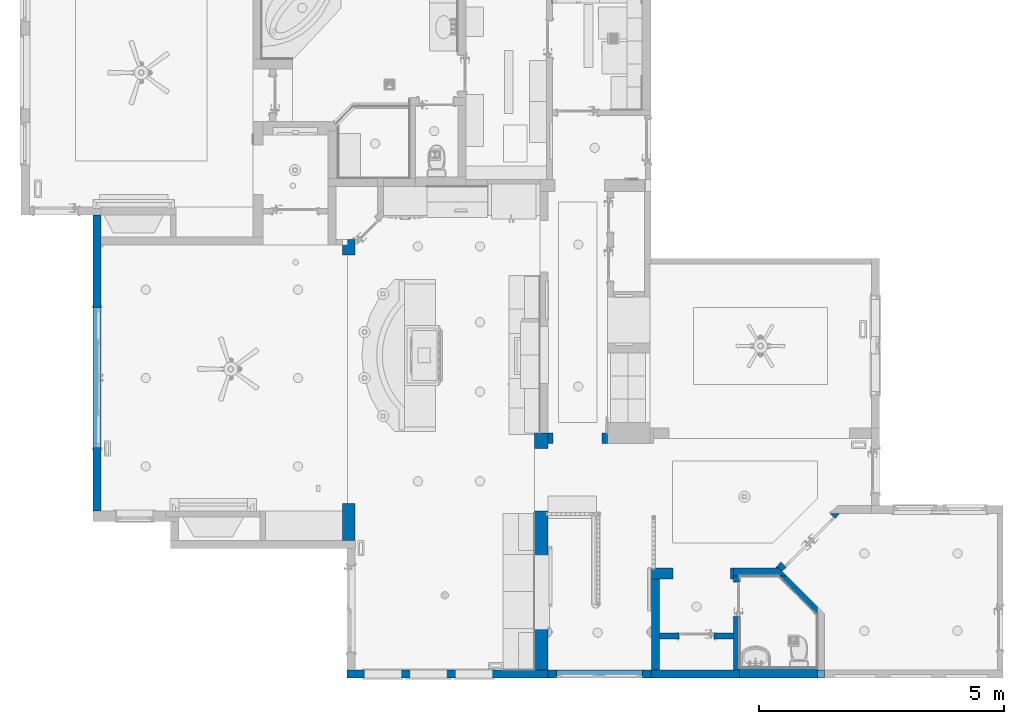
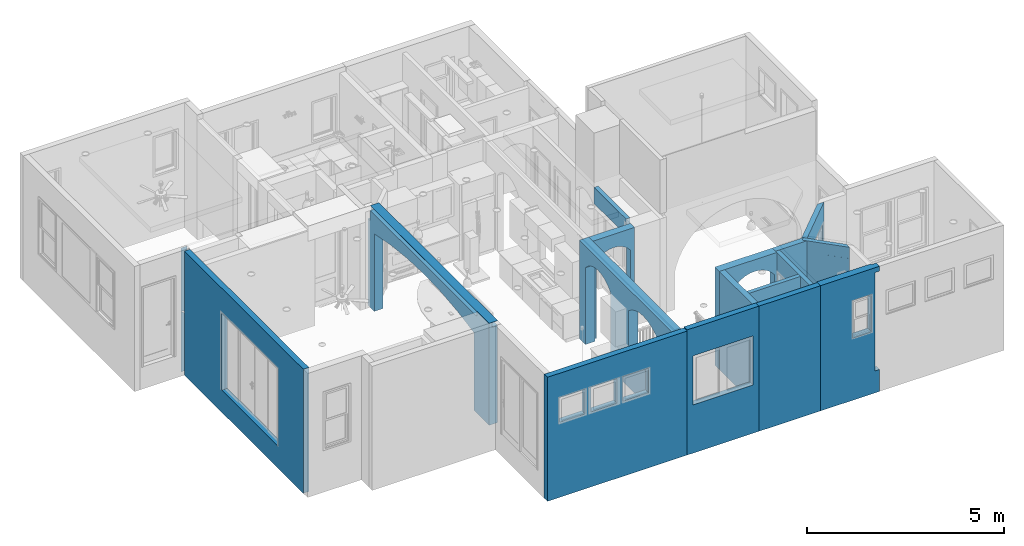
# One storey, part 6 of 77: 16 walls.
"""IFC2X3 building model written with IfcOpenShell, lengths in inches."""

from ifc_helpers import new_model, entity, si_unit, converted_unit, derived_unit, money_unit, direction, frame, origin_with_axes, place, context, subcontext, project, spatial, faceted_brep, material, type_object, element, save


model = new_model("IFC2X3")

# Units and contexts
model_context = context("Model", 3, precision=0.000393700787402, world=origin_with_axes(), true_north=direction((0.0, 1.0)))
body_context = subcontext(model_context, "Body", "Model", "MODEL_VIEW")
ifc_project = project(units=[converted_unit("LENGTHUNIT", "INCH", entity("IfcPositiveLengthMeasure", 0.0254), si_unit("LENGTHUNIT", "METRE"), dimensions=[1, 0, 0, 0, 0, 0, 0]), converted_unit("AREAUNIT", "SQUARE_FOOT", entity("IfcPositiveLengthMeasure", 0.09290304), si_unit("AREAUNIT", "SQUARE_METRE"), dimensions=[2, 0, 0, 0, 0, 0, 0]), si_unit("PLANEANGLEUNIT", "RADIAN"), si_unit("SOLIDANGLEUNIT", "STERADIAN"), money_unit("USD"), converted_unit("TIMEUNIT", "Year", entity("IfcTimeMeasure", 31556926.0), si_unit("TIMEUNIT", "SECOND"), dimensions=[0, 0, 1, 0, 0, 0, 0]), si_unit("MASSUNIT", "GRAM", prefix="KILO"), si_unit("THERMODYNAMICTEMPERATUREUNIT", "DEGREE_CELSIUS"), si_unit("LUMINOUSINTENSITYUNIT", "LUMEN"), si_unit("ENERGYUNIT", "JOULE", prefix="MEGA"), derived_unit("THERMALCONDUCTANCEUNIT", [(si_unit("POWERUNIT", "WATT"), 1), (si_unit("LENGTHUNIT", "METRE"), -1), (si_unit("THERMODYNAMICTEMPERATUREUNIT", "KELVIN"), -1)]), derived_unit("SPECIFICHEATCAPACITYUNIT", [(si_unit("ENERGYUNIT", "JOULE"), 1), (si_unit("MASSUNIT", "GRAM", prefix="KILO"), -1), (si_unit("THERMODYNAMICTEMPERATUREUNIT", "KELVIN"), -1)]), derived_unit("MASSDENSITYUNIT", [(si_unit("MASSUNIT", "GRAM", prefix="KILO"), 1), (si_unit("VOLUMEUNIT", "CUBIC_METRE"), -1)])], contexts=[model_context])

# Site, building, storey
site_placement = place(None, origin_with_axes())
site = spatial("IfcSite", under=ifc_project, at=site_placement, Name="Site", CompositionType="ELEMENT")
building_placement = place(site_placement, origin_with_axes())
building = spatial("IfcBuilding", under=site, at=building_placement, Name="Building", CompositionType="ELEMENT")
storey_placement = place(building_placement, frame((0.0, 0.0, 127.952755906), z_axis=(0.0, 0.0, 1.0), x_axis=(1.0, 0.0, 0.0)))
storey = spatial("IfcBuildingStorey", under=building, at=storey_placement, Name="Second Floor", CompositionType="ELEMENT", Elevation=127.953)

# Walls
ifc_material = material(Name="Generic - Structural")
wall_type_1 = type_object("IfcWallType", Name="Generic - Structural 115", PredefinedType="NOTDEFINED")
wall_1_placement = place(storey_placement, frame((691.989643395, 282.41001385, 0.0), z_axis=(0.0, 0.0, 1.0), x_axis=(0.0, -1.0, 0.0)))
element("IfcWall", 1, at=wall_1_placement, inside=storey, type_object=wall_type_1, material=ifc_material, Name="W-03", context=body_context, shape_type="Brep", body=[
    faceted_brep([(63.9541766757, 0.0, 0.0157480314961), (63.9541766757, 0.0, 94.094488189), (63.9541766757, 4.52755905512, 94.094488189), (63.9541766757, 4.52755905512, 0.0157480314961), (64.073707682, 0.0, 0.0157480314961), (64.073707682, 0.0, 94.094488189), (64.073707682, 4.52755905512, 94.094488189), (64.073707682, 4.52755905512, 0.0157480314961)], [[[0, 1, 2, 3]], [[4, 5, 1, 0]], [[5, 6, 2, 1]], [[3, 2, 6, 7]], [[4, 0, 3, 7]], [[7, 6, 5, 4]]]),
    faceted_brep([(63.9541766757, 4.52755905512, 100.0), (8.04866486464, 4.52755905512, 100.0), (-6.70554075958e-08, 4.52755905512, 100.0), (0.0, 4.52755905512, 120.0), (64.073707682, 4.52755905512, 120.0), (64.073707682, 4.52755905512, 100.0), (63.9541766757, 0.0, 100.0), (8.04866486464, 0.0, 100.0), (-6.70553726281e-08, 0.0, 100.0), (0.0, 0.0, 120.0), (64.073707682, 0.0, 120.0), (64.073707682, 0.0, 100.0)], [[[0, 1, 2, 3, 4, 5]], [[6, 7, 1, 0]], [[7, 8, 2, 1]], [[3, 2, 8, 9]], [[3, 9, 10, 4]], [[10, 11, 5, 4]], [[11, 6, 0, 5]], [[9, 8, 7, 6, 11, 10]]]),
])
wall_2_placement = place(storey_placement, frame((797.916864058, 48.9458964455, 0.0), z_axis=(0.0, 0.0, 1.0), x_axis=(-1.0, 0.0, 0.0)))
element("IfcWall", 2, at=wall_2_placement, inside=storey, type_object=wall_type_1, material=ifc_material, Name="SW - 084", context=body_context, shape_type="Brep", body=[
    faceted_brep([(48.4175888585, 0.0, 96.4566929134), (48.4175888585, 0.0, 0.0157480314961), (64.3608893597, 0.0, 0.0157480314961), (64.3608893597, 0.0, 120.078740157), (4.52755905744, 0.0, 120.078740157), (4.52755905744, 0.0, 0.0157480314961), (20.4648329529, 0.0, 0.0157480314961), (20.4648329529, 0.0, 96.4566929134), (48.4175888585, 4.52755905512, 96.4566929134), (48.4175888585, 4.52755905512, 0.0157480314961), (64.3608893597, 4.52755905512, 0.0157480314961), (64.3608893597, 4.52755905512, 120.078740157), (4.52770399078, 4.52755905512, 120.078740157), (4.52770399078, 4.52755905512, 0.0157480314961), (20.4648329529, 4.52755905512, 0.0157480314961), (20.4648329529, 4.52755905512, 96.4566929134)], [[[0, 1, 2, 3, 4, 5, 6, 7]], [[1, 0, 8, 9]], [[1, 9, 10, 2]], [[2, 10, 11, 3]], [[3, 11, 12, 4]], [[13, 5, 4, 12]], [[14, 6, 5, 13]], [[7, 6, 14, 15]], [[0, 7, 15, 8]], [[15, 14, 13, 12, 11, 10, 9, 8]]]),
])
wall_3_placement = place(storey_placement, frame((797.915918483, 19.4071722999, 0.0), z_axis=(0.0, 0.0, 1.0), x_axis=(3.20113633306e-05, 0.999999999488, 0.0)))
element("IfcWall", 3, at=wall_3_placement, inside=storey, type_object=wall_type_1, material=ifc_material, Name="SW - 082", context=body_context, shape_type="Brep", body=[
    faceted_brep([(43.1144194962, 0.0, 0.0157480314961), (43.1144194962, 0.0, 96.4566929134), (70.6734746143, 0.0, 96.4566929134), (70.6734746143, 0.0, 0.0157480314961), (75.5858833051, 0.0, 0.0157480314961), (75.5858833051, 0.0, 120.078740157), (0.0, 0.0, 120.078740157), (0.0, 0.0, 0.0), (0.000518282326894, 0.0, 0.0), (0.000456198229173, 0.0, 0.0157480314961), (43.1144194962, 4.52755905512, 0.0157480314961), (43.1144194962, 4.52755905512, 96.4566929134), (70.6734746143, 4.52755905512, 96.4566929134), (70.6734746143, 4.52755905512, 0.0157480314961), (75.5858833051, 4.52755905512, 0.0157480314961), (75.5858833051, 4.52755905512, 120.078740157), (-0.00014492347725, 4.52755905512, 120.078740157), (-0.00014492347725, 4.52755905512, 0.0), (0.000372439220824, 4.52755905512, 0.0), (0.000311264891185, 4.52755905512, 0.0157480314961)], [[[0, 1, 2, 3, 4, 5, 6, 7, 8, 9]], [[1, 0, 10, 11]], [[2, 1, 11, 12]], [[3, 2, 12, 13]], [[3, 13, 14, 4]], [[4, 14, 15, 5]], [[5, 15, 16, 6]], [[7, 6, 16, 17]], [[18, 8, 7, 17]], [[9, 8, 18, 19]], [[10, 0, 9, 19]], [[11, 10, 19, 18, 17, 16, 15, 14, 13, 12]]]),
])
wall_4_placement = place(storey_placement, frame((866.408419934, 64.4977948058, 0.0), z_axis=(0.0, 0.0, 1.0), x_axis=(-0.706451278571, 0.7077616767, 0.0)))
element("IfcWall", 4, at=wall_4_placement, inside=storey, type_object=wall_type_1, material=ifc_material, Name="SW - 078", context=body_context, shape_type="Brep", body=[
    faceted_brep([(52.2693606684, 4.52755905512, 120.094488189), (43.6689277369, 4.52755905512, 120.094488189), (3.29478492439, 4.48229267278, 120.094488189), (7.78539181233, 0.0, 120.094488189), (52.2693606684, 0.0, 120.094488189), (3.24943457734, 4.52755905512, 106.5), (43.6689277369, 4.52755905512, 106.5), (52.2693606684, 4.52755905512, 120.078740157), (47.6046505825, 4.52755905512, 120.078740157), (47.6046505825, 4.52755905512, 0.0157480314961), (3.24943457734, 4.52755905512, 0.0157480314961), (3.29478492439, 4.48229267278, 106.5), (7.78539181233, 0.0, 0.0157480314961), (43.0851848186, 0.0, 0.0157480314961), (43.0851848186, 0.0, 120.078740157), (52.2693606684, 0.0, 120.078740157)], [[[0, 1, 2, 3, 4]], [[5, 6, 1, 0, 7, 8, 9, 10]], [[6, 11, 2, 1]], [[2, 11, 5, 10, 12, 3]], [[3, 12, 13, 14, 15, 4]], [[0, 4, 15, 7]], [[6, 5, 11]], [[7, 15, 14, 8]], [[14, 13, 9, 8]], [[9, 13, 12, 10]]]),
])
wall_type_2 = type_object("IfcWallType", Name="Generic - Structural 140", PredefinedType="NOTDEFINED")
wall_5_placement = place(storey_placement, frame((828.366577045, 95.0341059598, 0.0), z_axis=(0.0, 0.0, 1.0), x_axis=(0.707106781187, 0.707106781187, 0.0)))
element("IfcWall", 5, at=wall_5_placement, inside=storey, type_object=wall_type_2, material=ifc_material, Name="SW - 079", context=body_context, shape_type="Brep", body=[
    faceted_brep([(9.93196431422, 0.0, 0.0157480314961), (9.93196431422, 0.0, 96.4566929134), (65.8374761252, 0.0, 96.4566929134), (65.8374761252, 0.0, 0.0157480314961), (70.8847202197, 0.0, 0.0157480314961), (70.8847202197, 0.0, 120.078740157), (0.0, 0.0, 120.078740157), (0.0, 0.0, 0.0157480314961), (9.93196431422, 5.5, 0.0157480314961), (9.93196431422, 5.5, 96.4566929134), (65.3846979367, 5.5, 96.4566929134), (65.8374761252, 5.04722364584, 96.4566929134), (65.8374761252, 5.04722364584, 0.0157480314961), (65.3846979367, 5.5, 120.078740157), (0.0, 5.5, 120.078740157), (0.0, 5.5, 0.0157480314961)], [[[0, 1, 2, 3, 4, 5, 6, 7]], [[1, 0, 8, 9]], [[2, 1, 9, 10, 11]], [[3, 2, 11, 12]], [[3, 12, 4]], [[11, 10, 13, 5, 4, 12]], [[14, 6, 5, 13]], [[6, 14, 15, 7]], [[8, 0, 7, 15]], [[9, 8, 15, 14, 13, 10]]]),
])
wall_type_3 = type_object("IfcWallType", Name="Generic - Structural 215", PredefinedType="NOTDEFINED")
wall_6_placement = place(storey_placement, frame((632.966021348, 201.40717231, 0.0), z_axis=(0.0, 0.0, 1.0), x_axis=(1.0, 0.0, 0.0)))
element("IfcWall", 6, at=wall_6_placement, inside=storey, type_object=wall_type_3, material=ifc_material, Name="SW - 090", context=body_context, shape_type="Brep", body=[
    faceted_brep([(14.9339893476, 8.46456692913, 93.937007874), (14.9339893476, 8.46456692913, 0.0157480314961), (11.0236220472, 8.46456692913, 0.0157480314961), (11.0236220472, 8.46456692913, 120.078740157), (59.0236220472, 8.46456692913, 120.078740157), (59.0236220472, 8.46456692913, 0.0157480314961), (54.3040680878, 8.46456692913, 0.0157480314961), (54.3040680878, 8.46456692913, 93.937007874), (51.270408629, 8.46456692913, 97.3629258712), (47.6498866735, 8.46456692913, 100.161465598), (43.5701041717, 8.46456692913, 102.233995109), (39.1748492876, 8.46456692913, 103.507470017), (34.6190287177, 8.46456692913, 103.937007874), (30.0632081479, 8.46456692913, 103.507470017), (25.6679532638, 8.46456692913, 102.233995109), (21.588170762, 8.46456692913, 100.161465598), (17.9676488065, 8.46456692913, 97.3629258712), (14.9339893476, 0.0, 93.937007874), (14.9339893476, 0.0, 0.0157480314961), (11.0236220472, 0.0, 0.0157480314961), (11.0236220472, 0.0, 120.078740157), (59.0236220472, 0.0, 120.078740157), (59.0236220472, 0.0, 0.0157480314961), (54.3040680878, 0.0, 0.0157480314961), (54.3040680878, 0.0, 93.937007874), (51.270408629, 0.0, 97.3629258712), (47.6498866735, 0.0, 100.161465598), (43.5701041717, 0.0, 102.233995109), (39.1748492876, 0.0, 103.507470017), (34.6190287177, 0.0, 103.937007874), (30.0632081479, 0.0, 103.507470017), (25.6679532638, 0.0, 102.233995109), (21.588170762, 0.0, 100.161465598), (17.9676488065, 0.0, 97.3629258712)], [[[0, 1, 2, 3, 4, 5, 6, 7, 8, 9, 10, 11, 12, 13, 14, 15, 16]], [[1, 0, 17, 18]], [[1, 18, 19, 2]], [[2, 19, 20, 3]], [[3, 20, 21, 4]], [[22, 5, 4, 21]], [[23, 6, 5, 22]], [[7, 6, 23, 24]], [[8, 7, 24, 25]], [[9, 8, 25, 26]], [[10, 9, 26, 27]], [[11, 10, 27, 28]], [[12, 11, 28, 29]], [[13, 12, 29, 30]], [[14, 13, 30, 31]], [[15, 14, 31, 32]], [[16, 15, 32, 33]], [[0, 16, 33, 17]], [[24, 23, 22, 21, 20, 19, 18, 17, 33, 32, 31, 30, 29, 28, 27, 26, 25]]]),
])
wall_type_4 = type_object("IfcWallType", Name="Generic Wall 6.5\" 165", PredefinedType="NOTDEFINED")
wall_7_placement = place(storey_placement, frame((727.055974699, 101.493059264, 0.0), z_axis=(0.0, 0.0, 1.0), x_axis=(0.0, -1.0, 0.0)))
element("IfcWall", 7, at=wall_7_placement, inside=storey, type_object=wall_type_4, material=ifc_material, Name="SW - 087", context=body_context, shape_type="Brep", body=[
    faceted_brep([(82.0858868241, 6.5, 120.078740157), (82.085430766, 6.5, 0.0157480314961), (9.05510427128, 6.5, 0.0157480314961), (9.05510427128, 6.5, 120.078740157), (82.0858868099, 0.0, 120.078740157), (82.085430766, 0.0, 0.0157480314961), (73.5854248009, 7.21691822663e-07, 0.0157480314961), (9.05511814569, -0.00151187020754, 0.0157480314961), (9.05511811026, 0.0, 120.078740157)], [[[0, 1, 2, 3]], [[4, 5, 1, 0]], [[6, 7, 2, 1, 5]], [[3, 2, 7, 8]], [[0, 3, 8, 4]], [[7, 6, 5, 4, 8]]]),
])
wall_8_placement = place(storey_placement, frame((284.332689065, 147.162436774, -26.968503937), z_axis=(0.0, 0.0, 1.0), x_axis=(3.62216863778e-06, 0.999999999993, 0.0)))
element("IfcWall", 8, at=wall_8_placement, inside=storey, type_object=wall_type_4, material=ifc_material, Name="SW - 112", context=body_context, shape_type="Brep", body=[
    faceted_brep([(244.677806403, 0.0, 151.57480315), (244.677782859, 6.5, 151.57480315), (244.677782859, 6.5, 0.0), (244.677806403, 0.0, 0.0), (244.677783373, 6.35823497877, 72.8100383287), (244.677783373, 6.35823497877, 73.8188976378), (244.677792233, 3.91208585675, 73.8188976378), (244.677804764, 0.452708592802, 69.0910888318), (244.677804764, 0.452708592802, 65.748023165), (244.67780209, 1.19089939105, 65.748023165), (244.677801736, 1.28842748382, 67.1137109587), (244.677800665, 1.58423939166, 68.4505393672), (244.677798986, 2.04787343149, 69.6432287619), (244.677796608, 2.70437694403, 70.7416219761), (244.677793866, 3.46123724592, 71.5961239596), (244.677790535, 4.38078125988, 72.272474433), (244.677787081, 5.33447687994, 72.6701204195), (244.699244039, 0.0, 151.57480315), (244.696804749, 6.5, 151.57480315), (244.696804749, 6.5, 147.062992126), (244.744737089, 6.5, 147.062992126), (244.744737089, 6.5, 0.0), (244.744737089, 0.0, 0.0), (244.744737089, 0.0, 147.062992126), (244.699244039, 0.0, 147.062992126), (244.744737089, 6.3582352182, 72.8100383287), (244.744737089, 6.3582352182, 73.8188976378), (244.744737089, 3.91208609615, 73.8188976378), (244.744733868, 0.452708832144, 69.0910888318), (244.744733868, 0.452708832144, 65.748023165), (244.744737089, 1.19089963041, 65.748023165), (244.744737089, 1.28842772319, 67.1137109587), (244.744737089, 1.58423963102, 68.4505393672), (244.744737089, 2.04787367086, 69.6432287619), (244.744737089, 2.70437718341, 70.7416219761), (244.744737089, 3.46123748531, 71.5961239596), (244.744737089, 4.38078149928, 72.272474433), (244.744737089, 5.33447711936, 72.6701204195)], [[[0, 1, 2, 3], [4, 5, 6, 7, 8, 9, 10, 11, 12, 13, 14, 15, 16]], [[1, 0, 17, 18]], [[1, 18, 19, 20, 21, 2]], [[2, 21, 22, 3]], [[22, 23, 24, 17, 0, 3]], [[4, 25, 26, 5]], [[5, 26, 27, 6]], [[6, 27, 28, 7]], [[29, 8, 7, 28]], [[8, 29, 30, 9]], [[9, 30, 31, 10]], [[10, 31, 32, 11]], [[11, 32, 33, 12]], [[12, 33, 34, 13]], [[13, 34, 35, 14]], [[14, 35, 36, 15]], [[15, 36, 37, 16]], [[16, 37, 25, 4]], [[24, 19, 18, 17]], [[20, 19, 24, 23]], [[22, 21, 20, 23], [31, 30, 29, 28, 27, 26, 25, 37, 36, 35, 34, 33, 32]]]),
    faceted_brep([(238.177782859, 6.5, 0.0), (-1.15312570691e-05, 6.5, 0.0), (-1.15312570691e-05, 6.5, 151.57480315), (238.177782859, 6.5, 151.57480315), (51.1973926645, 6.5, 26.968503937), (163.402117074, 6.5, 26.968503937), (163.402117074, 6.5, 121.456692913), (51.1973926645, 6.5, 121.456692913), (238.177806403, 0.0, 0.0), (0.0, 0.0, 0.0), (0.0, 0.0, 151.57480315), (238.177806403, 0.0, 151.57480315), (51.1973926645, 0.0, 26.968503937), (163.402117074, 0.0, 26.968503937), (163.402117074, 0.0, 121.456692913), (51.1973926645, 0.0, 121.456692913)], [[[0, 1, 2, 3], [4, 5, 6, 7]], [[8, 9, 1, 0]], [[10, 2, 1, 9]], [[3, 2, 10, 11]], [[11, 8, 0, 3]], [[5, 4, 12, 13]], [[14, 6, 5, 13]], [[15, 7, 6, 14]], [[4, 7, 15, 12]], [[11, 10, 9, 8], [15, 14, 13, 12]]]),
])
wall_9_placement = place(storey_placement, frame((643.989643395, 19.4076291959, -26.968503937), z_axis=(0.0, 0.0, 1.0), x_axis=(-0.999999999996, -2.92832620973e-06, 0.0)))
element("IfcWall", 9, at=wall_9_placement, inside=storey, type_object=wall_type_4, material=ifc_material, Name="SW - 098", context=body_context, shape_type="Brep", body=[
    faceted_brep([(161.600077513, 6.5, 0.0), (0.0, 6.5, 0.0), (0.0, 6.5, 151.57480315), (161.600077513, 6.5, 151.57480315), (117.913736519, 6.5, 121.653543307), (117.913736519, 6.5, 91.7313736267), (147.638145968, 6.5, 91.7313736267), (147.638145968, 6.5, 121.653543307), (111.023972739, 6.5, 121.653543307), (81.2995632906, 6.5, 121.653543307), (81.2995632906, 6.5, 91.7322834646), (111.023972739, 6.5, 91.7322834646), (74.4097995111, 6.5, 91.7322834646), (74.4097995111, 6.5, 121.653543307), (44.6853900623, 6.5, 121.653543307), (44.6853900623, 6.5, 91.7322834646), (161.600060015, 0.0, 0.0), (0.0, 0.0, 0.0), (0.0, 0.0, 147.062992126), (0.0, 0.000456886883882, 147.062992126), (0.0, 0.000456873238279, 151.57480315), (161.600060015, 0.0, 151.57480315), (10.9999983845, 0.00042467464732, 151.57480315), (10.9999984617, 0.0, 151.57480315), (117.913736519, 0.0, 121.653543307), (117.913736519, 0.0, 91.7313736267), (147.638145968, 0.0, 91.7313736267), (147.638145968, 0.0, 121.653543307), (81.2995632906, 0.0, 121.653543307), (111.023972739, 0.0, 121.653543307), (81.2995632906, 0.0, 91.7322834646), (111.023972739, 0.0, 91.7322834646), (74.4097995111, 0.0, 91.7322834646), (74.4097995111, 0.0, 121.653543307), (44.6853900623, 0.0, 121.653543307), (44.6853900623, 0.0, 91.7322834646), (10.9999984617, 0.0, 147.062992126), (10.9999983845, 0.00042467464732, 147.062992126)], [[[0, 1, 2, 3], [4, 5, 6, 7], [8, 9, 10, 11], [12, 13, 14, 15]], [[16, 17, 1, 0]], [[2, 1, 17, 18, 19, 20]], [[21, 3, 2, 20, 22, 23]], [[16, 0, 3, 21]], [[5, 4, 24, 25]], [[6, 5, 25, 26]], [[7, 6, 26, 27]], [[4, 7, 27, 24]], [[28, 9, 8, 29]], [[30, 10, 9, 28]], [[31, 11, 10, 30]], [[29, 8, 11, 31]], [[32, 33, 13, 12]], [[33, 34, 14, 13]], [[34, 35, 15, 14]], [[35, 32, 12, 15]], [[18, 17, 16, 21, 23, 36], [24, 27, 26, 25], [30, 28, 29, 31], [32, 35, 34, 33]], [[36, 37, 19, 18]], [[19, 37, 22, 20]], [[22, 37, 36, 23]]]),
])
wall_10_placement = place(storey_placement, frame((797.915918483, 19.4071722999, -26.968503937), z_axis=(0.0, 0.0, 1.0), x_axis=(-1.0, 2.17793912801e-09, 0.0)))
element("IfcWall", 10, at=wall_10_placement, inside=storey, type_object=wall_type_4, material=ifc_material, Name="SW - 088", context=body_context, shape_type="Brep", body=[
    faceted_brep([(70.9262750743, 6.50000015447, 152.952755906), (-1.41565849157e-08, 6.5, 152.952755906), (0.0, 0.0, 152.952755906), (70.9262750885, 1.5447311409e-07, 152.952755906), (-1.41565849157e-08, 6.5, 26.968503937), (-1.41565849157e-08, 6.5, 147.047244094), (70.9262750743, 6.50000015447, 0.0), (-1.41565849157e-08, 6.5, 0.0), (0.0, 0.0, 26.968503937), (0.0, 0.0, 147.047244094), (0.0, 0.0, 0.0), (70.9262750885, 1.54473105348e-07, 0.0)], [[[0, 1, 2, 3]], [[4, 5, 1, 0, 6, 7]], [[8, 9, 2, 1, 5, 4, 7, 10]], [[3, 2, 9, 8, 10, 11]], [[6, 0, 3, 11]], [[6, 11, 10, 7]]]),
])
wall_11_placement = place(storey_placement, frame((726.989643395, 19.4071724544, -26.968503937), z_axis=(0.0, 0.0, 1.0), x_axis=(-0.999999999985, 5.50291021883e-06, 0.0)))
element("IfcWall", 11, at=wall_11_placement, inside=storey, type_object=wall_type_4, material=ifc_material, Name="SW - 088", context=body_context, shape_type="Brep", body=[
    faceted_brep([(83.0000000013, 6.5, 152.952755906), (83.0000000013, 6.5, 0.0), (0.0, 6.5, 0.0), (0.0, 6.5, 152.952755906), (76.1219121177, 6.5, 59.0513496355), (76.1219121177, 6.5, 118.897637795), (6.83057353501, 6.5, 118.897637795), (6.83057353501, 6.5, 59.0513496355), (83.0000000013, 0.0, 152.952755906), (83.0000000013, 0.0, 0.0), (0.0, 0.0, 0.0), (0.0, 0.0, 152.952755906), (76.1219121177, 0.0, 59.0513496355), (76.1219121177, 0.0, 118.897637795), (6.83057353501, 0.0, 118.897637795), (6.83057353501, 0.0, 59.0513496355)], [[[0, 1, 2, 3], [4, 5, 6, 7]], [[8, 9, 1, 0]], [[1, 9, 10, 2]], [[11, 3, 2, 10]], [[8, 0, 3, 11]], [[12, 13, 5, 4]], [[13, 14, 6, 5]], [[14, 15, 7, 6]], [[15, 12, 4, 7]], [[9, 8, 11, 10], [12, 15, 14, 13]]]),
])
wall_12_placement = place(storey_placement, frame((793.390987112, 101.493200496, 0.0), z_axis=(0.0, 0.0, 1.0), x_axis=(0.999999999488, -3.20113633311e-05, 0.0)))
element("IfcWall", 12, at=wall_12_placement, inside=storey, type_object=wall_type_4, material=ifc_material, Name="SW - 086", context=body_context, shape_type="Brep", body=[
    faceted_brep([(0.0, -6.5, 120.078740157), (0.0, -6.5, 0.0157480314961), (42.5800570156, -6.5, 0.0157480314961), (42.5800570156, -6.5, 120.078740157), (0.0, 0.0, 120.078740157), (0.0, 0.0, 0.0157480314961), (36.0916761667, 0.0, 0.0157480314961), (36.0916761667, 0.0, 120.078740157)], [[[0, 1, 2, 3]], [[4, 5, 1, 0]], [[5, 6, 2, 1]], [[3, 2, 6, 7]], [[0, 3, 7, 4]], [[7, 6, 5, 4]]]),
])
wall_type_5 = type_object("IfcWallType", Name="Generic - Structural 255", PredefinedType="NOTDEFINED")
wall_13_placement = place(storey_placement, frame((488.846876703, 123.544517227, 0.0), z_axis=(0.0, 0.0, 1.0), x_axis=(0.0, 1.0, 0.0)))
element("IfcWall", 13, at=wall_13_placement, inside=storey, type_object=wall_type_5, material=ifc_material, Name="SW - 099", context=body_context, shape_type="Brep", body=[
    faceted_brep([(163.309218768, 0.0, 104.678933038), (196.701906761, 0.0, 101.005737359), (229.737512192, 0.0, 94.905511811), (229.737512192, 0.0, 0.0157480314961), (242.362655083, 0.0, 0.0157480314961), (242.362655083, 0.0, 118.5), (237.835096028, 0.0, 118.5), (237.835096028, 0.0, 118.503937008), (-4.27624460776e-06, 0.0, 118.503937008), (-4.27624460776e-06, 0.0, 0.0157480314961), (29.7375121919, 0.0, 0.0157480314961), (29.7375121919, 0.0, 94.905511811), (62.7731176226, 0.0, 101.005737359), (96.1658056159, 0.0, 104.678933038), (129.737512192, 0.0, 105.905511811), (163.309218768, 10.0393700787, 104.678933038), (196.701906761, 10.0393700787, 101.005737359), (229.737512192, 10.0393700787, 94.905511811), (229.737512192, 10.0393700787, 0.0157480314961), (242.362655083, 10.0393700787, 0.0157480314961), (242.362655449, 6.38596915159, 105.905511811), (242.362655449, 6.38596915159, 118.5), (242.362655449, 10.0393700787, 105.905511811), (237.835628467, 10.0393700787, 118.5), (237.835096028, 10.0393700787, 118.5), (237.835793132, 6.38596341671, 118.5), (237.835096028, 10.0393700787, 118.503937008), (23.6187846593, 6.38016993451, 118.503937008), (-5.78287998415e-06, 6.37733164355, 118.503937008), (23.6187593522, 10.0393700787, 118.503937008), (-4.27624460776e-06, 0.0, 124.606299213), (-6.64803125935e-06, 10.0393700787, 124.606299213), (-6.64803125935e-06, 10.0393700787, 0.0157480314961), (-5.78287998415e-06, 6.37733164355, 124.409448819), (-4.27624460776e-06, 0.0, 124.409448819), (29.7375121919, 10.0393700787, 0.0157480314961), (29.7375121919, 10.0393700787, 94.905511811), (62.7731176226, 10.0393700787, 101.005737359), (96.1658056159, 10.0393700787, 104.678933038), (129.737512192, 10.0393700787, 105.905511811), (237.835096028, 10.0393700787, 124.606299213), (237.835096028, 10.0393700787, 124.409448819), (23.6187593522, 10.0393700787, 124.409448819), (237.835628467, 10.0393700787, 105.905511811), (237.835793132, 6.38596341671, 105.905511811), (23.6187846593, 6.38016993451, 124.409448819), (237.835096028, 0.0, 124.606299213), (237.835096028, 0.0, 124.409448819)], [[[0, 1, 2, 3, 4, 5, 6, 7, 8, 9, 10, 11, 12, 13, 14]], [[1, 0, 15, 16]], [[2, 1, 16, 17]], [[3, 2, 17, 18]], [[3, 18, 19, 4]], [[20, 21, 5, 4, 19, 22]], [[23, 24, 6, 5, 21, 25]], [[26, 7, 6, 24]], [[27, 28, 8, 7, 26, 29]], [[30, 31, 32, 9, 8, 28, 33, 34]], [[35, 10, 9, 32]], [[11, 10, 35, 36]], [[12, 11, 36, 37]], [[13, 12, 37, 38]], [[14, 13, 38, 39]], [[0, 14, 39, 15]], [[36, 35, 32, 31, 40, 41, 42, 29, 26, 24, 23, 43, 22, 19, 18, 17, 16, 15, 39, 38, 37]], [[44, 25, 21, 20]], [[44, 20, 22, 43]], [[43, 23, 25, 44]], [[27, 45, 33, 28]], [[45, 27, 29, 42]], [[31, 30, 46, 40]], [[41, 47, 34, 33, 45, 42]], [[46, 30, 34, 47]], [[41, 40, 46, 47]]]),
])
wall_type_6 = type_object("IfcWallType", Name="Generic - Structural 200", PredefinedType="NOTDEFINED")
wall_14_placement = place(storey_placement, frame((866.408419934, 20.7811880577, -26.968503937), z_axis=(0.0, 0.0, 1.0), x_axis=(-1.0, 0.0, 0.0)))
element("IfcWall", 14, at=wall_14_placement, inside=storey, type_object=wall_type_6, material=ifc_material, Name="SW - 081", context=body_context, shape_type="Brep", body=[
    faceted_brep([(68.4925014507, 7.87401574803, 0.0), (0.0, 7.87401574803, 0.0), (0.0, 7.87401574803, 26.968503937), (5.5, 7.87401574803, 26.968503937), (5.5, 7.87401574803, 147.062992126), (0.0, 7.87401574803, 147.062992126), (0.0, 7.87401574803, 152.952755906), (68.4925014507, 7.87401574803, 152.952755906), (68.4927095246, 7.87401575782, 147.047244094), (68.4927095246, 7.87401575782, 26.968503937), (31.4726341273, 7.87401574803, 75.9842519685), (31.4726341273, 7.87401574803, 121.653543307), (9.42539003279, 7.87401574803, 121.653543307), (9.42539003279, 7.87401574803, 75.9842519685), (68.4925014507, 0.0, 0.0), (0.0, 0.0, 0.0), (0.0, 1.37348371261, 26.968503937), (0.0, 0.0, 0.0157480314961), (0.0, 1.37355955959, 0.0157480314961), (5.5, 1.37348481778, 26.968503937), (5.5, 1.37355955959, 26.9842519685), (5.5, 0.0, 26.9842519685), (5.5, 0.0, 147.062992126), (5.5, 1.37401574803, 147.062992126), (0.0, 1.37401574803, 147.062992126), (0.0, 1.37401574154, 152.952755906), (68.4925014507, 0.0, 152.952755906), (5.5, 1.37401574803, 152.952755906), (5.5, 0.0, 152.952755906), (68.4924574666, 1.40799445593e-09, 147.047244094), (68.4924574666, 1.40799445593e-09, 26.9842519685), (68.4927095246, 1.37355955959, 26.9842519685), (68.4927095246, 1.37355955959, 0.0157480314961), (68.492501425, 0.0, 0.0157480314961), (31.4726341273, 0.0, 75.9842519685), (31.4726341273, 0.0, 121.653543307), (9.42539003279, 0.0, 121.653543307), (9.42539003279, 0.0, 75.9842519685)], [[[0, 1, 2, 3, 4, 5, 6, 7, 8, 9], [10, 11, 12, 13]], [[0, 14, 15, 1]], [[16, 2, 1, 15, 17, 18]], [[2, 16, 19, 3]], [[3, 19, 20, 21, 22, 23, 4]], [[23, 24, 5, 4]], [[24, 25, 6, 5]], [[26, 7, 6, 25, 27, 28]], [[7, 26, 29, 30, 31, 32, 33, 14, 0, 9, 8]], [[34, 35, 11, 10]], [[35, 36, 12, 11]], [[36, 37, 13, 12]], [[37, 34, 10, 13]], [[14, 33, 17, 15]], [[32, 18, 17, 33]], [[16, 18, 32, 31, 20, 19]], [[31, 30, 21, 20]], [[21, 30, 29, 26, 28, 22], [34, 37, 36, 35]], [[22, 28, 27, 23]], [[27, 25, 24, 23]]]),
])
wall_type_7 = type_object("IfcWallType", Name="Generic - Structural 280", PredefinedType="NOTDEFINED")
wall_15_placement = place(storey_placement, frame((632.966021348, 19.4071723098, 0.0), z_axis=(0.0, 0.0, 1.0), x_axis=(0.0, 1.0, 0.0)))
element("IfcWall", 15, at=wall_15_placement, inside=storey, type_object=wall_type_7, material=ifc_material, Name="SW - 089", context=body_context, shape_type="Brep", body=[
    faceted_brep([(141.7720648, 0.0, 103.8738747), (136.608087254, 0.0, 101.395165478), (131.967968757, 0.0, 98.0365997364), (128.0, 0.0, 93.905511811), (128.0, 0.0, 0.0157480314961), (0.000456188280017, 0.0, 0.0157480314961), (0.000425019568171, 0.0, 118.503937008), (128.0, 0.0, 118.503937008), (128.0, 0.0, 120.078740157), (190.464566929, 0.0, 120.078740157), (190.464566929, 0.0, 0.0157480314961), (178.0, 0.0, 0.0157480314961), (178.0, 0.0, 93.905511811), (174.032031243, 0.0, 98.0365997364), (169.391912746, 0.0, 101.395165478), (164.2279352, 0.0, 103.8738747), (158.705130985, 0.0, 105.39351186), (153.0, 0.0, 105.905511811), (147.294869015, 0.0, 105.39351186), (33.5000003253, 0.0, 40.9448818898), (91.570866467, 0.0, 40.9448818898), (91.570866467, 0.0, 93.9212598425), (85.1857605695, 0.0, 98.61345077), (78.0600620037, 0.0, 102.079089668), (70.4267581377, 0.0, 104.204861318), (62.5354333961, 0.0, 104.921259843), (54.6441086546, 0.0, 104.204861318), (47.0108047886, 0.0, 102.079089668), (39.8851062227, 0.0, 98.61345077), (33.5000003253, 0.0, 93.9212598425), (136.608087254, -11.0236220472, 101.395165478), (141.7720648, -11.0236220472, 103.8738747), (131.967968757, -11.0236220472, 98.0365997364), (128.0, -11.0236220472, 93.905511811), (128.0, -11.0236220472, 0.0157480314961), (8.50045961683, -11.0236220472, 0.0157480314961), (0.000456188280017, -11.0236220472, 0.0157480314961), (0.000424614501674, -0.00313854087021, 120.078740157), (0.000424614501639, -0.00313854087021, 118.503937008), (0.000456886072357, -11.0236220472, 120.078740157), (190.464566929, -11.0236220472, 120.078740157), (190.464566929, -11.0236220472, 0.0157480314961), (178.0, -11.0236220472, 0.0157480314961), (178.0, -11.0236220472, 93.905511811), (174.032031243, -11.0236220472, 98.0365997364), (169.391912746, -11.0236220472, 101.395165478), (164.2279352, -11.0236220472, 103.8738747), (158.705130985, -11.0236220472, 105.39351186), (153.0, -11.0236220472, 105.905511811), (147.294869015, -11.0236220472, 105.39351186), (33.5000003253, -11.0236220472, 40.9448818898), (91.570866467, -11.0236220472, 40.9448818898), (91.570866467, -11.0236220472, 93.9212598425), (85.1857605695, -11.0236220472, 98.61345077), (78.0600620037, -11.0236220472, 102.079089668), (70.4267581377, -11.0236220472, 104.204861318), (62.5354333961, -11.0236220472, 104.921259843), (54.6441086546, -11.0236220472, 104.204861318), (47.0108047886, -11.0236220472, 102.079089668), (39.8851062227, -11.0236220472, 98.61345077), (33.5000003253, -11.0236220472, 93.9212598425)], [[[0, 1, 2, 3, 4, 5, 6, 7, 8, 9, 10, 11, 12, 13, 14, 15, 16, 17, 18], [19, 20, 21, 22, 23, 24, 25, 26, 27, 28, 29]], [[30, 1, 0, 31]], [[32, 2, 1, 30]], [[33, 3, 2, 32]], [[34, 4, 3, 33]], [[35, 36, 5, 4, 34]], [[37, 38, 6, 5, 36, 39]], [[7, 6, 38]], [[37, 8, 7, 38]], [[40, 9, 8, 37, 39]], [[10, 9, 40, 41]], [[11, 10, 41, 42]], [[43, 12, 11, 42]], [[44, 13, 12, 43]], [[45, 14, 13, 44]], [[46, 15, 14, 45]], [[47, 16, 15, 46]], [[48, 17, 16, 47]], [[49, 18, 17, 48]], [[31, 0, 18, 49]], [[50, 51, 20, 19]], [[51, 52, 21, 20]], [[52, 53, 22, 21]], [[53, 54, 23, 22]], [[54, 55, 24, 23]], [[55, 56, 25, 24]], [[56, 57, 26, 25]], [[57, 58, 27, 26]], [[58, 59, 28, 27]], [[59, 60, 29, 28]], [[60, 50, 19, 29]], [[48, 47, 46, 45, 44, 43, 42, 41, 40, 39, 36, 35, 34, 33, 32, 30, 31, 49], [54, 53, 52, 51, 50, 60, 59, 58, 57, 56, 55]]]),
])
wall_type_8 = type_object("IfcWallType", Name="Generic - Structural 230", PredefinedType="NOTDEFINED")
wall_16_placement = place(storey_placement, frame((727.055974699, 101.493059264, 0.0), z_axis=(0.0, 0.0, 1.0), x_axis=(0.999999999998, 2.12907293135e-06, 0.0)))
element("IfcWall", 16, at=wall_16_placement, inside=storey, type_object=wall_type_8, material=ifc_material, Name="SW - 086", context=body_context, shape_type="Brep", body=[
    faceted_brep([(17.5222947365, -3.73062434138e-05, 93.905511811), (17.5222947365, -3.73062434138e-05, 0.0157480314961), (0.0, 0.0, 0.0157480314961), (0.0, 0.0, 120.078740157), (66.3350124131, -0.00014123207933, 120.078740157), (66.3350124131, -0.00014123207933, 0.0157480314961), (63.5852868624, -0.000135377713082, 0.0157480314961), (63.5852868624, -0.000135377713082, 93.905511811), (60.086797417, -0.000127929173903, 98.0071067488), (55.869479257, -0.000118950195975, 101.365192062), (51.0885327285, -0.000108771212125, 103.856187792), (45.9199001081, -9.77668163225e-05, 105.388423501), (40.5537907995, -8.63419782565e-05, 105.905511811), (35.1876814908, -7.4917140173e-05, 105.388423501), (30.0190488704, -6.39127443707e-05, 103.856187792), (25.238102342, -5.37337605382e-05, 101.365192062), (21.0207841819, -4.47547825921e-05, 98.0071067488), (17.5222754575, -9.05515541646, 93.905511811), (17.5222754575, -9.05515541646, 0.0157480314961), (-1.92790068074e-05, -9.05511811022, 0.0157480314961), (-1.92790068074e-05, -9.05511811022, 120.078740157), (66.3349931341, -9.05525934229, 120.078740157), (66.3349931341, -9.05525934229, 0.0157480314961), (63.5852675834, -9.05525348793, 0.0157480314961), (63.5852675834, -9.05525348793, 93.905511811), (60.086778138, -9.05524603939, 98.0071067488), (55.869459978, -9.05523706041, 101.365192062), (51.0885134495, -9.05522688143, 103.856187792), (45.9198808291, -9.05521587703, 105.388423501), (40.5537715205, -9.05520445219, 105.905511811), (35.1876622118, -9.05519302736, 105.388423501), (30.0190295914, -9.05518202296, 103.856187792), (25.238083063, -9.05517184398, 101.365192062), (21.0207649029, -9.055162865, 98.0071067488)], [[[0, 1, 2, 3, 4, 5, 6, 7, 8, 9, 10, 11, 12, 13, 14, 15, 16]], [[1, 0, 17, 18]], [[1, 18, 19, 2]], [[2, 19, 20, 3]], [[20, 21, 4, 3]], [[22, 5, 4, 21]], [[23, 6, 5, 22]], [[7, 6, 23, 24]], [[8, 7, 24, 25]], [[9, 8, 25, 26]], [[10, 9, 26, 27]], [[11, 10, 27, 28]], [[12, 11, 28, 29]], [[13, 12, 29, 30]], [[14, 13, 30, 31]], [[15, 14, 31, 32]], [[16, 15, 32, 33]], [[0, 16, 33, 17]], [[24, 23, 22, 21, 20, 19, 18, 17, 33, 32, 31, 30, 29, 28, 27, 26, 25]]]),
])

save(model, "model.ifc")
